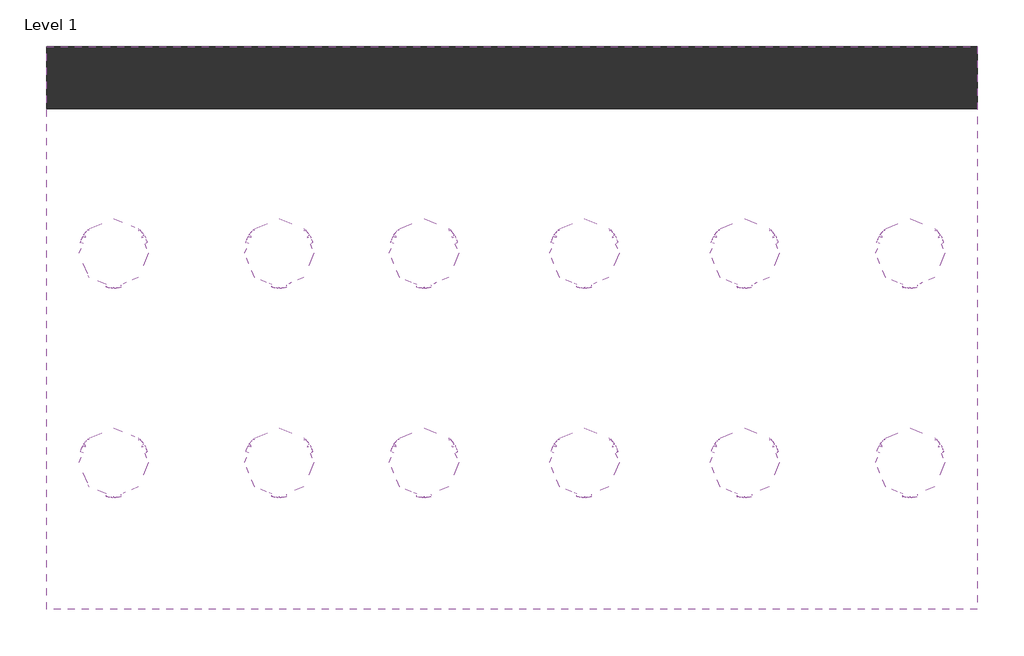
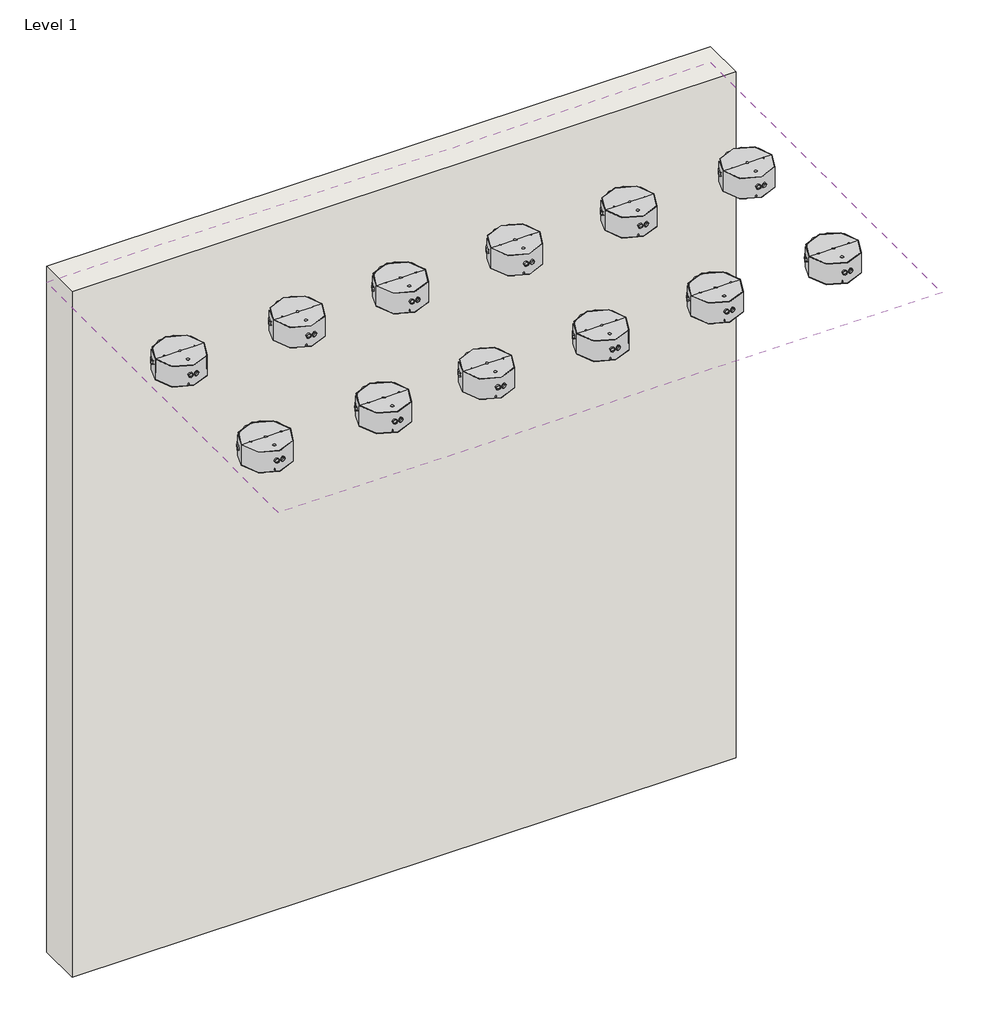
# One storey: 12 proxies, 1 covering, 1 wall.
"""IFC4 building model written with IfcOpenShell, lengths in millimetres."""

import ifcopenshell
import ifcopenshell.guid

model = None  # the IFC model being written
_history = None  # IfcOwnerHistory: only IFC2X3 demands one
_inside = {}  # id of a spatial element -> (the spatial element, [elements in it])
_under = {}  # id of a project, library or spatial element -> (it, [spatial elements below it])
_declared = {}  # id of a project -> (the project, [libraries it declares])
_typed = {}  # id of a type object -> (the type object, [elements of that type])
_made_of = {}  # id of a material, layer set ... -> (it, [elements and type objects made of it])


def new_model(schema):
    """Start an empty IFC model of exactly this schema.

    Asked for "IFC4X3", IfcOpenShell would pick the latest addendum, in which some entities
    have other attributes; the version numbers below select the first issue.
    IFC2X3 requires an IfcOwnerHistory on every rooted entity: one is made here for all.
    """
    global model, _history
    if schema == "IFC4X3":
        model = ifcopenshell.file(schema_version=(4, 3, 0, 0))
    else:
        model = ifcopenshell.file(schema=schema)
    _inside.clear()
    _under.clear()
    _declared.clear()
    _typed.clear()
    _made_of.clear()
    _history = None
    if model.schema == "IFC2X3":
        org = make("IfcOrganization", Name="unknown")
        user = make(
            "IfcPersonAndOrganization",
            ThePerson=make("IfcPerson", FamilyName="unknown"),
            TheOrganization=org,
        )
        app = make(
            "IfcApplication",
            ApplicationDeveloper=org,
            Version="unknown",
            ApplicationFullName="unknown",
            ApplicationIdentifier="unknown",
        )
        _history = make(
            "IfcOwnerHistory",
            OwningUser=user,
            OwningApplication=app,
            ChangeAction="ADDED",
            CreationDate=0,
        )
    return model


def make(cls, **values):
    """One entity of the class cls with the attributes given. An attribute that is None is left unset."""
    return model.create_entity(
        cls, **{name: value for name, value in values.items() if value is not None}
    )


def rooted(cls, **values):
    """An entity with a GlobalId (a new one), such as an element, a storey or a relation."""
    return make(cls, GlobalId=ifcopenshell.guid.new(), OwnerHistory=_history, **values)


def si_unit(unit_type, name, prefix=None):
    """IfcSIUnit, for example si_unit("LENGTHUNIT", "METRE", prefix="MILLI")."""
    return make("IfcSIUnit", UnitType=unit_type, Prefix=prefix, Name=name)


def assignment(units):
    """IfcUnitAssignment: the units of a project."""
    return None if units is None else make("IfcUnitAssignment", Units=units)


def point(xyz):
    """IfcCartesianPoint."""
    return None if xyz is None else make("IfcCartesianPoint", Coordinates=xyz)


def direction(xyz):
    """IfcDirection."""
    return None if xyz is None else make("IfcDirection", DirectionRatios=xyz)


def frame(location, z_axis=None, x_axis=None):
    """IfcAxis2Placement3D, a coordinate frame: its origin and axes. An axis left out is left unset."""
    return make(
        "IfcAxis2Placement3D",
        Location=point(location),
        Axis=direction(z_axis),
        RefDirection=direction(x_axis),
    )


def frame_2d(location, x_axis=None):
    """IfcAxis2Placement2D, a coordinate frame in the plane: its origin and x axis."""
    return make(
        "IfcAxis2Placement2D", Location=point(location), RefDirection=direction(x_axis)
    )


def origin():
    """The frame at (0, 0, 0) with its axes left unset."""
    return frame((0.0, 0.0, 0.0))


def origin_with_axes():
    """The frame at (0, 0, 0) with the z axis (0, 0, 1) and the x axis (1, 0, 0) written out."""
    return frame((0.0, 0.0, 0.0), z_axis=(0.0, 0.0, 1.0), x_axis=(1.0, 0.0, 0.0))


def place(relative_to, where):
    """IfcLocalPlacement: puts the frame where relative to a parent placement (None: the world)."""
    return make(
        "IfcLocalPlacement", PlacementRelTo=relative_to, RelativePlacement=where
    )


def context(
    kind, dimensions, precision=None, world=None, true_north=None, identifier=None
):
    """IfcGeometricRepresentationContext, for example the 3D "Model" context."""
    return make(
        "IfcGeometricRepresentationContext",
        ContextIdentifier=identifier,
        ContextType=kind,
        CoordinateSpaceDimension=dimensions,
        Precision=precision,
        WorldCoordinateSystem=world,
        TrueNorth=true_north,
    )


def project(units=None, contexts=None):
    """IfcProject with its units and contexts."""
    return rooted(
        "IfcProject",
        Name="project",
        RepresentationContexts=contexts,
        UnitsInContext=assignment(units),
    )


def spatial(cls, under=None, at=None, **own):
    """A site, building, storey or space (cls), placed at a placement, below another one or the project."""
    s = rooted(cls, ObjectPlacement=at, **own)
    if under is not None:
        _under.setdefault(under.id(), (under, []))[1].append(s)
    return s


def polyline(points):
    """IfcPolyline through the points."""
    return make("IfcPolyline", Points=[point(p) for p in points])


def circle_curve(where, radius):
    """IfcCircle in the frame where."""
    return make("IfcCircle", Position=where, Radius=radius)


def ellipse_curve(where, semi_axis1, semi_axis2):
    """IfcEllipse in the frame where."""
    return make(
        "IfcEllipse", Position=where, SemiAxis1=semi_axis1, SemiAxis2=semi_axis2
    )


def trimmed(basis, trim1, trim2, sense, master):
    """IfcTrimmedCurve: the piece of a basis curve between two trims."""
    return make(
        "IfcTrimmedCurve",
        BasisCurve=basis,
        Trim1=trim1,
        Trim2=trim2,
        SenseAgreement=sense,
        MasterRepresentation=master,
    )


def segment(curve, same_sense, transition):
    """IfcCompositeCurveSegment."""
    return make(
        "IfcCompositeCurveSegment",
        Transition=transition,
        SameSense=same_sense,
        ParentCurve=curve,
    )


def composite_curve(segments, self_intersect=None):
    """IfcCompositeCurve: segments joined end to end."""
    return make("IfcCompositeCurve", Segments=segments, SelfIntersect=self_intersect)


def outline(outer, holes=None, kind="AREA"):
    """IfcArbitraryClosedProfileDef: a profile drawn as a closed curve; with holes, ...WithVoids."""
    if holes is None:
        return make("IfcArbitraryClosedProfileDef", ProfileType=kind, OuterCurve=outer)
    return make(
        "IfcArbitraryProfileDefWithVoids",
        ProfileType=kind,
        OuterCurve=outer,
        InnerCurves=holes,
    )


def extrude(swept, where, along, depth):
    """IfcExtrudedAreaSolid: the profile swept, set in the frame where, extruded along a direction by depth."""
    return make(
        "IfcExtrudedAreaSolid",
        SweptArea=swept,
        Position=where,
        ExtrudedDirection=direction(along),
        Depth=depth,
    )


def shape(context_of_items, identifier, shape_type, items):
    """IfcShapeRepresentation: the items that make up one representation, for example the "Body"."""
    return make(
        "IfcShapeRepresentation",
        ContextOfItems=context_of_items,
        RepresentationIdentifier=identifier,
        RepresentationType=shape_type,
        Items=items,
    )


def source(mapping_origin, context_of_items, identifier, shape_type, items):
    """IfcRepresentationMap: a shape defined once, which mapped items show again and again."""
    return make(
        "IfcRepresentationMap",
        MappingOrigin=mapping_origin,
        MappedRepresentation=shape(context_of_items, identifier, shape_type, items),
    )


def transform(
    local_origin,
    x_axis=None,
    y_axis=None,
    z_axis=None,
    scale=None,
    scale2=None,
    scale3=None,
    uniform=True,
):
    """IfcCartesianTransformationOperator3D, or its non-uniform kind. x_axis, y_axis, z_axis: its Axis1, 2, 3."""
    if uniform:
        return make(
            "IfcCartesianTransformationOperator3D",
            Axis1=direction(x_axis),
            Axis2=direction(y_axis),
            LocalOrigin=point(local_origin),
            Scale=scale,
            Axis3=direction(z_axis),
        )
    return make(
        "IfcCartesianTransformationOperator3DnonUniform",
        Axis1=direction(x_axis),
        Axis2=direction(y_axis),
        LocalOrigin=point(local_origin),
        Scale=scale,
        Axis3=direction(z_axis),
        Scale2=scale2,
        Scale3=scale3,
    )


def mapped(mapping_source, mapping_target):
    """IfcMappedItem: shows the shape of a source again, moved by a transform."""
    return make(
        "IfcMappedItem", MappingSource=mapping_source, MappingTarget=mapping_target
    )


def made_of(thing, what):
    """Note that an element or type object is made of a material, layer set ...; save() writes the relation."""
    if what is not None:
        _made_of.setdefault(what.id(), (what, []))[1].append(thing)
    return thing


def element(
    cls,
    number,
    at=None,
    inside=None,
    cuts=None,
    type_object=None,
    material=None,
    context=None,
    identifier="Body",
    shape_type=None,
    held_by="IfcProductDefinitionShape",
    body=None,
    shapes=None,
    **own,
):
    """One element of the class cls, such as IfcWall. Its Tag is "e" and its number.

    at: its placement. inside: the storey or other place that contains it. cuts: it is an
    opening in that element (IfcRelVoidsElement). A single representation is given by context,
    identifier, shape_type and body (its items); several are given by shapes. held_by: the class
    of the entity that holds the representations. save() writes the other relations.
    """
    e = rooted(cls, Tag="e%d" % number, ObjectPlacement=at, **own)
    if body is not None:
        shapes = [shape(context, identifier, shape_type, body)]
    if shapes is not None:
        e.Representation = make(held_by, Representations=shapes)
    if inside is not None:
        _inside.setdefault(inside.id(), (inside, []))[1].append(e)
    if cuts is not None:
        rooted(
            "IfcRelVoidsElement", RelatingBuildingElement=cuts, RelatedOpeningElement=e
        )
    if type_object is not None:
        _typed.setdefault(type_object.id(), (type_object, []))[1].append(e)
    return made_of(e, material)


def aggregate(whole, parts):
    """IfcRelAggregates: a whole, such as a stair, and the parts it consists of."""
    return rooted("IfcRelAggregates", RelatingObject=whole, RelatedObjects=parts)


def save(model, path):
    """Write the relations noted so far, then the file.

    IfcRelAggregates (storeys below a building ...), IfcRelContainedInSpatialStructure (elements
    in a storey), IfcRelDefinesByType, IfcRelAssociatesMaterial and IfcRelDeclares: one each for
    every whole, place, type object, material and project.
    """
    for whole, parts in _under.values():
        aggregate(whole, parts)
    for where, things in _inside.values():
        rooted(
            "IfcRelContainedInSpatialStructure",
            RelatedElements=things,
            RelatingStructure=where,
        )
    for kind, things in _typed.values():
        rooted("IfcRelDefinesByType", RelatedObjects=things, RelatingType=kind)
    for what, things in _made_of.values():
        rooted("IfcRelAssociatesMaterial", RelatedObjects=things, RelatingMaterial=what)
    for by, libraries in _declared.values():
        rooted("IfcRelDeclares", RelatingContext=by, RelatedDefinitions=libraries)
    model.write(path)


def plane_surface(at):
    """IfcPlane: the flat surface through the origin of the frame at, square to its z axis."""
    return make("IfcPlane", Position=at)


def cylinder_surface(at, radius):
    """IfcCylindricalSurface: all points at the distance radius from the z axis of the frame at."""
    return make("IfcCylindricalSurface", Position=at, Radius=radius)


def revolved_surface(curve, axis_point, axis_direction):
    """IfcSurfaceOfRevolution: the curve turned about the line through axis_point along axis_direction."""
    return make(
        "IfcSurfaceOfRevolution",
        SweptCurve=make("IfcArbitraryOpenProfileDef", ProfileType="CURVE", Curve=curve),
        AxisPosition=make("IfcAxis1Placement", Location=point(axis_point), Axis=direction(axis_direction)),
    )


def advanced_brep(points, edges, surfaces, faces):
    """IfcAdvancedBrep: a solid bounded by faces that lie on surfaces and meet in shared edges.

    An edge is (start, end): straight between two places in points (the first is 0);
    or (start, end, curve); or (start, end, curve, False) where it runs against its curve.
    A face is (place in surfaces, loops), or (place, loops, False) where it looks against
    its surface's normal. A loop lists edges by number (the first is 1), with a minus sign
    where the edge is run from its end to its start. The first loop is the outer one.
    """
    corners = [point(p) for p in points]
    vertices = [make("IfcVertexPoint", VertexGeometry=c) for c in corners]
    made = []
    for start, end, *more in edges:
        made.append(
            make(
                "IfcEdgeCurve",
                EdgeStart=vertices[start],
                EdgeEnd=vertices[end],
                EdgeGeometry=more[0] if more else make("IfcPolyline", Points=[corners[start], corners[end]]),
                SameSense=more[1] if len(more) > 1 else True,
            )
        )
    hull = []
    for where, loops, *sense in faces:
        bounds = []
        for j, loop in enumerate(loops):
            ring = [make("IfcOrientedEdge", EdgeElement=made[abs(k) - 1], Orientation=k > 0) for k in loop]
            bounds.append(
                make(
                    "IfcFaceOuterBound" if j == 0 else "IfcFaceBound",
                    Bound=make("IfcEdgeLoop", EdgeList=ring),
                    Orientation=True,
                )
            )
        hull.append(make("IfcAdvancedFace", Bounds=bounds, FaceSurface=surfaces[where], SameSense=sense[0] if sense else True))
    return make("IfcAdvancedBrep", Outer=make("IfcClosedShell", CfsFaces=hull))


def communication_devices_d300471b(model_context):
    return source(origin(), model_context, "Body", "SolidModel", [
        extrude(outline(composite_curve([segment(trimmed(circle_curve(frame_2d((0.0, 6.4)), 8.0), [point((0.0, 14.4))], [point((0.0, -1.6))], False, "CARTESIAN"), True, "CONTINUOUS"), segment(trimmed(circle_curve(frame_2d((0.0, 6.4)), 8.0), [point((0.0, -1.6))], [point((0.0, 14.4))], False, "CARTESIAN"), True, "CONTINUOUS")], self_intersect=False), holes=[composite_curve([segment(trimmed(circle_curve(frame_2d((0.0, 6.4)), 6.4), [point((0.0, 12.8))], [point((0.0, 0.0))], True, "CARTESIAN"), True, "CONTINUOUS"), segment(trimmed(circle_curve(frame_2d((0.0, 6.4)), 6.4), [point((0.0, 0.0))], [point((0.0, 12.8))], True, "CARTESIAN"), True, "CONTINUOUS")], self_intersect=False)]), frame((73.5583047, 25.1034264, 41.3589597), z_axis=(0.927183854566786, 0.3746065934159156, 0.0), x_axis=(0.0, 0.0, -1.0)), (0.0, 0.0, 1.0), 8.4103356),
        extrude(outline(composite_curve([segment(trimmed(circle_curve(frame_2d((0.0, 6.4)), 8.0), [point((0.0, 14.4))], [point((0.0, -1.6))], False, "CARTESIAN"), True, "CONTINUOUS"), segment(trimmed(circle_curve(frame_2d((0.0, 6.4)), 8.0), [point((0.0, -1.6))], [point((0.0, 14.4))], False, "CARTESIAN"), True, "CONTINUOUS")], self_intersect=False), holes=[composite_curve([segment(trimmed(circle_curve(frame_2d((0.0, 6.4)), 6.4), [point((0.0, 12.8))], [point((0.0, 0.0))], True, "CARTESIAN"), True, "CONTINUOUS"), segment(trimmed(circle_curve(frame_2d((0.0, 6.4)), 6.4), [point((0.0, 0.0))], [point((0.0, 12.8))], True, "CARTESIAN"), True, "CONTINUOUS")], self_intersect=False)]), frame((-58.5193574, 51.1516474, 41.3589597), z_axis=(-0.7880107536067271, 0.6156614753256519, 0.0), x_axis=(0.0, 0.0, -1.0)), (0.0, 0.0, 1.0), 8.4103356),
        extrude(outline(composite_curve([segment(trimmed(circle_curve(frame_2d((0.0, 6.4000001)), 8.0), [point((0.0, 14.4))], [point((0.0, -1.6))], False, "CARTESIAN"), True, "CONTINUOUS"), segment(trimmed(circle_curve(frame_2d((0.0, 6.4000001)), 8.0), [point((0.0, -1.6))], [point((0.0, 14.4))], False, "CARTESIAN"), True, "CONTINUOUS")], self_intersect=False), holes=[composite_curve([segment(trimmed(circle_curve(frame_2d((0.0, 6.4000001)), 6.4), [point((0.0, 12.8))], [point((0.0, 0.0))], True, "CARTESIAN"), True, "CONTINUOUS"), segment(trimmed(circle_curve(frame_2d((0.0, 6.4000001)), 6.4), [point((0.0, 0.0))], [point((0.0, 12.8))], True, "CARTESIAN"), True, "CONTINUOUS")], self_intersect=False)]), frame((-16.2094399, -84.5835606, 41.3589597), z_axis=(0.13917310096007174, 0.9902680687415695, 0.0), x_axis=(0.0, 0.0, 1.0)), (0.0, 0.0, 1.0), 8.4103356),
        extrude(outline(composite_curve([segment(trimmed(circle_curve(frame_2d((0.0, 6.4)), 8.0), [point((0.0, 14.4))], [point((0.0, -1.6))], False, "CARTESIAN"), True, "CONTINUOUS"), segment(trimmed(circle_curve(frame_2d((0.0, 6.4)), 8.0), [point((0.0, -1.6))], [point((0.0, 14.4))], False, "CARTESIAN"), True, "CONTINUOUS")], self_intersect=False), holes=[composite_curve([segment(trimmed(circle_curve(frame_2d((0.0, 6.4)), 6.4), [point((0.0, 12.8))], [point((0.0, 0.0))], True, "CARTESIAN"), True, "CONTINUOUS"), segment(trimmed(circle_curve(frame_2d((0.0, 6.4)), 6.4), [point((0.0, 0.0))], [point((0.0, 12.8))], True, "CARTESIAN"), True, "CONTINUOUS")], self_intersect=False)]), frame((58.5193574, 51.1516474, 41.3589597), z_axis=(0.7880107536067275, 0.6156614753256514, 0.0), x_axis=(0.0, 0.0, 1.0)), (0.0, 0.0, 1.0), 8.4103356),
        extrude(outline(composite_curve([segment(trimmed(circle_curve(frame_2d((0.0, 6.4)), 8.0), [point((0.0, 14.4))], [point((0.0, -1.6))], False, "CARTESIAN"), True, "CONTINUOUS"), segment(trimmed(circle_curve(frame_2d((0.0, 6.4)), 8.0), [point((0.0, -1.6))], [point((0.0, 14.4))], False, "CARTESIAN"), True, "CONTINUOUS")], self_intersect=False), holes=[composite_curve([segment(trimmed(circle_curve(frame_2d((0.0, 6.4)), 6.4), [point((0.0, 12.8))], [point((0.0, 0.0))], True, "CARTESIAN"), True, "CONTINUOUS"), segment(trimmed(circle_curve(frame_2d((0.0, 6.4)), 6.4), [point((0.0, 0.0))], [point((0.0, 12.8))], True, "CARTESIAN"), True, "CONTINUOUS")], self_intersect=False)]), frame((-73.5583047, 25.1034264, 41.3589597), z_axis=(-0.9271838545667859, 0.3746065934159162, 0.0), x_axis=(0.0, 0.0, 1.0)), (0.0, 0.0, 1.0), 8.4103356),
        extrude(outline(composite_curve([segment(trimmed(circle_curve(frame_2d((0.0, 6.4000001)), 8.0), [point((0.0, 14.4))], [point((0.0, -1.6))], False, "CARTESIAN"), True, "CONTINUOUS"), segment(trimmed(circle_curve(frame_2d((0.0, 6.4000001)), 8.0), [point((0.0, -1.6))], [point((0.0, 14.4))], False, "CARTESIAN"), True, "CONTINUOUS")], self_intersect=False), holes=[composite_curve([segment(trimmed(circle_curve(frame_2d((0.0, 6.4000001)), 6.4), [point((0.0, 12.8))], [point((0.0, 0.0))], True, "CARTESIAN"), True, "CONTINUOUS"), segment(trimmed(circle_curve(frame_2d((0.0, 6.4000001)), 6.4), [point((0.0, 0.0))], [point((0.0, 12.8))], True, "CARTESIAN"), True, "CONTINUOUS")], self_intersect=False)]), frame((16.2094399, -84.5835606, 41.3589597), z_axis=(-0.13917310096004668, 0.990268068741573, 0.0), x_axis=(0.0, 0.0, -1.0)), (0.0, 0.0, 1.0), 8.4103356),
        advanced_brep(
        [(83.1008845, 0.0, 75.0), (-83.1008845, 0.0, 75.0), (-55.5276636, 0.0, 75.0), (-49.6947731, 0.0, 75.0), (-5.0, 0.0, 75.0), (5.0, 0.0, 75.0), (49.6947731, 0.0, 75.0), (55.5276636, 0.0, 75.0), (5.0, -50.0, 75.0), (-5.0, -50.0, 75.0), (83.1008845, 0.0, 25.0), (-83.1008845, 0.0, 25.0), (0.0, 0.0, 25.0), (-5.0, 0.0, 68.563781), (5.0, 0.0, 68.563781), (-5.0, -50.0, 68.563781), (5.0, -50.0, 68.563781), (-55.5276636, 0.0, 68.563781), (-49.6947731, 0.0, 68.563781), (55.5276636, 0.0, 68.563781), (49.6947731, 0.0, 68.563781)],
        [
            (0, 1, circle_curve(frame((0.0, 0.0, 75.0), z_axis=(0.0, 0.0, 1.0), x_axis=(-1.0, 0.0, 0.0)), 83.1008845)),
            (1, 2),
            (2, 3, circle_curve(frame((-52.6112183, 0.0, 75.0), z_axis=(0.0, 0.0, -1.0), x_axis=(1.0, 0.0, 0.0)), 2.9164453)),
            (3, 4),
            (4, 5, circle_curve(frame((0.0, 0.0, 75.0), z_axis=(0.0, 0.0, -1.0), x_axis=(1.0, 0.0, 0.0)), 5.0)),
            (5, 6),
            (6, 7, circle_curve(frame((52.6112183, 0.0, 75.0), z_axis=(0.0, 0.0, -1.0), x_axis=(-1.0, 0.0, 0.0)), 2.9164453)),
            (7, 0),
            (1, 0, circle_curve(frame((0.0, 0.0, 75.0), z_axis=(0.0, 0.0, 1.0), x_axis=(-1.0, 0.0, 0.0)), 83.1008845)),
            (7, 6, circle_curve(frame((52.6112183, 0.0, 75.0), z_axis=(0.0, 0.0, -1.0), x_axis=(-1.0, 0.0, 0.0)), 2.9164453)),
            (5, 4, circle_curve(frame((0.0, 0.0, 75.0), z_axis=(0.0, 0.0, -1.0), x_axis=(1.0, 0.0, 0.0)), 5.0)),
            (3, 2, circle_curve(frame((-52.6112183, 0.0, 75.0), z_axis=(0.0, 0.0, -1.0), x_axis=(1.0, 0.0, 0.0)), 2.9164453)),
            (8, 9, circle_curve(frame((0.0, -50.0, 75.0), z_axis=(0.0, 0.0, -1.0), x_axis=(1.0, 0.0, 0.0)), 5.0)),
            (9, 8, circle_curve(frame((0.0, -50.0, 75.0), z_axis=(0.0, 0.0, -1.0), x_axis=(1.0, 0.0, 0.0)), 5.0)),
            (0, 10),
            (10, 11, circle_curve(frame((0.0, 0.0, 25.0), z_axis=(0.0, 0.0, 1.0), x_axis=(-1.0, 0.0, 0.0)), 83.1008845)),
            (11, 1),
            (11, 10, circle_curve(frame((0.0, 0.0, 25.0), z_axis=(0.0, 0.0, 1.0), x_axis=(-1.0, 0.0, 0.0)), 83.1008845)),
            (10, 12),
            (12, 11),
            (13, 14, circle_curve(frame((0.0, 0.0, 68.563781), z_axis=(0.0, 0.0, 1.0), x_axis=(1.0, 0.0, 0.0)), 5.0)),
            (14, 13, circle_curve(frame((0.0, 0.0, 68.563781), z_axis=(0.0, 0.0, 1.0), x_axis=(1.0, 0.0, 0.0)), 5.0)),
            (15, 16, circle_curve(frame((0.0, -50.0, 68.563781), z_axis=(0.0, 0.0, 1.0), x_axis=(1.0, 0.0, 0.0)), 5.0)),
            (16, 15, circle_curve(frame((0.0, -50.0, 68.563781), z_axis=(0.0, 0.0, 1.0), x_axis=(1.0, 0.0, 0.0)), 5.0)),
            (17, 18, circle_curve(frame((-52.6112183, 0.0, 68.563781), z_axis=(0.0, 0.0, 1.0), x_axis=(1.0, 0.0, 0.0)), 2.9164453)),
            (18, 17, circle_curve(frame((-52.6112183, 0.0, 68.563781), z_axis=(0.0, 0.0, 1.0), x_axis=(1.0, 0.0, 0.0)), 2.9164453)),
            (19, 20, circle_curve(frame((52.6112183, 0.0, 68.563781), z_axis=(0.0, 0.0, 1.0), x_axis=(-1.0, 0.0, 0.0)), 2.9164453)),
            (20, 19, circle_curve(frame((52.6112183, 0.0, 68.563781), z_axis=(0.0, 0.0, 1.0), x_axis=(-1.0, 0.0, 0.0)), 2.9164453)),
            (13, 4),
            (5, 14),
            (15, 9),
            (8, 16),
            (17, 2),
            (3, 18),
            (19, 7),
            (6, 20),
        ],
        [
            plane_surface(frame((0.0, 0.0, 75.0), z_axis=(0.0, 0.0, 1.0), x_axis=(-1.0, 0.0, 0.0))),
            cylinder_surface(frame((0.0, 0.0, 60.0), z_axis=(0.0, 0.0, -1.0), x_axis=(-1.0, 0.0, 0.0)), 83.1008845),
            plane_surface(frame((0.0, 0.0, 25.0), z_axis=(0.0, 0.0, -1.0), x_axis=(-1.0, 0.0, 0.0))),
            plane_surface(frame((5.0, 0.0, 68.563781), z_axis=(0.0, 0.0, 1.0), x_axis=(0.0, -1.0, 0.0))),
            revolved_surface(polyline([(5.0, 0.0, 75.0), (5.0, 0.0, 68.563781)]), (0.0, 0.0, 68.563781), (0.0, 0.0, 1.0)),
            revolved_surface(polyline([(5.0, -50.0, 75.0), (5.0, -50.0, 68.563781)]), (0.0, -50.0, 0.0), (0.0, 0.0, 1.0)),
            revolved_surface(polyline([(-49.694773, 0.0, 75.0), (-49.694773, 0.0, 68.563781)]), (-52.6112183, 0.0, 0.0), (0.0, 0.0, 1.0)),
            revolved_surface(polyline([(49.694773, 0.0, 75.0), (49.694773, 0.0, 68.563781)]), (52.6112183, 0.0, 0.0), (0.0, 0.0, 1.0)),
        ],
        [
            (0, [[1, 2, 3, 4, 5, 6, 7, 8]]),
            (0, [[9, -8, 10, -6, 11, -4, 12, -2], [13, 14]]),
            (1, [[-1, 15, 16, 17]]),
            (1, [[-9, -17, 18, -15]]),
            (2, [[-16, 19, 20]]),
            (2, [[-18, -20, -19]]),
            (3, [[21, 22]]),
            (3, [[23, 24]]),
            (3, [[25, 26]]),
            (3, [[27, 28]]),
            (4, [[-21, 29, -11, 30]]),
            (4, [[-22, -30, -5, -29]]),
            (5, [[-23, 31, -13, 32]]),
            (5, [[-24, -32, -14, -31]]),
            (6, [[-25, 33, -12, 34]]),
            (6, [[-26, -34, -3, -33]]),
            (7, [[-27, 35, -7, 36]]),
            (7, [[-28, -36, -10, -35]]),
        ],
    ),
        advanced_brep(
        [(0.0, 0.0, 0.0), (-69.0225418, 0.0, 0.0), (69.0225418, 0.0, 0.0), (-70.0, 0.0, 0.9774582), (70.0, 0.0, 0.9774582), (-70.0, 0.0, 15.0), (70.0, 0.0, 15.0), (0.0, 0.0, 15.0)],
        [
            (0, 1),
            (1, 2, circle_curve(frame((0.0, 0.0, 0.0), z_axis=(0.0, 0.0, -1.0), x_axis=(-1.0, 0.0, 0.0)), 69.0225418)),
            (2, 0),
            (2, 1, circle_curve(frame((0.0, 0.0, 0.0), z_axis=(0.0, 0.0, -1.0), x_axis=(-1.0, 0.0, 0.0)), 69.0225418)),
            (1, 3, circle_curve(frame((-69.0225418, 0.0, 0.9774582), z_axis=(0.0, 1.0, 0.0), x_axis=(1.0, 0.0, 0.0)), 0.9774582)),
            (3, 4, circle_curve(frame((0.0, 0.0, 0.9774582), z_axis=(0.0, 0.0, -1.0), x_axis=(-1.0, 0.0, 0.0)), 70.0)),
            (4, 2, circle_curve(frame((69.0225418, 0.0, 0.9774582), z_axis=(0.0, 1.0, 0.0), x_axis=(-1.0, 0.0, 0.0)), 0.9774582)),
            (4, 3, circle_curve(frame((0.0, 0.0, 0.9774582), z_axis=(0.0, 0.0, -1.0), x_axis=(-1.0, 0.0, 0.0)), 70.0)),
            (3, 5),
            (5, 6, circle_curve(frame((0.0, 0.0, 15.0), z_axis=(0.0, 0.0, -1.0), x_axis=(-1.0, 0.0, 0.0)), 70.0)),
            (6, 4),
            (6, 5, circle_curve(frame((0.0, 0.0, 15.0), z_axis=(0.0, 0.0, -1.0), x_axis=(-1.0, 0.0, 0.0)), 70.0)),
            (5, 7),
            (7, 6),
        ],
        [
            plane_surface(frame((0.0, 0.0, 0.0), z_axis=(0.0, 0.0, -1.0), x_axis=(-1.0, 0.0, 0.0))),
            revolved_surface(trimmed(ellipse_curve(frame((-69.0225418, 0.0, 0.9774582), z_axis=(0.0, -1.0, 0.0), x_axis=(1.0, 0.0, 0.0)), 0.9774582, 0.9774582), [point((-70.0, 0.0, 0.9774582))], [point((-69.0225418, 0.0, 0.0))], True, "CARTESIAN"), (0.0, 0.0, 7.5), (0.0, 0.0, -1.0)),
            cylinder_surface(frame((0.0, 0.0, 7.5), z_axis=(0.0, 0.0, -1.0), x_axis=(-1.0, 0.0, 0.0)), 70.0),
            plane_surface(frame((0.0, 0.0, 15.0), z_axis=(0.0, 0.0, 1.0), x_axis=(-1.0, 0.0, 0.0))),
        ],
        [
            (0, [[1, 2, 3]]),
            (0, [[-3, 4, -1]]),
            (1, [[-2, 5, 6, 7]]),
            (1, [[-4, -7, 8, -5]]),
            (2, [[-6, 9, 10, 11]]),
            (2, [[-8, -11, 12, -9]]),
            (3, [[-10, 13, 14]]),
            (3, [[-12, -14, -13]]),
        ],
    ),
        advanced_brep(
        [(71.0, 0.0, 0.0), (-71.0, 0.0, 0.0), (-83.5, 0.0, 0.0), (83.5, 0.0, 0.0), (-85.0, 0.0, 1.5), (85.0, 0.0, 1.5), (-85.0, 0.0, 75.0), (85.0, 0.0, 75.0), (-62.669585, 57.424064, 13.619508), (-64.399204, 55.4774055, 13.619508), (-64.399204, 55.4774055, 8.619508), (-62.669585, 57.424064, 8.619508), (81.0654907, 25.5614206, 13.619508), (80.2444445, 28.0326439, 13.619508), (80.2444445, 28.0326439, 8.619508), (81.0654907, 25.5614206, 8.619508), (-18.3959057, -82.9854846, 13.619508), (-15.8452405, -83.5100494, 13.619508), (-15.8452405, -83.5100494, 8.619508), (-18.3959057, -82.9854846, 8.619508), (-83.1008845, 0.0, 75.0), (83.1008845, 0.0, 75.0), (0.0, 0.0, 15.0), (-70.0, 0.0, 15.0), (70.0, 0.0, 15.0), (-70.0, 0.0, 1.0), (70.0, 0.0, 1.0), (83.1008845, 0.0, 25.0), (-83.1008845, 0.0, 25.0), (0.0, 0.0, 25.0), (-15.8452405, -73.2496508, 13.619508), (-18.3959057, -73.2496508, 13.619508), (-18.3959057, -73.2496508, 8.619508), (-15.8452405, -73.2496508, 8.619508), (-55.5134381, 50.3472062, 13.619508), (-54.2381056, 52.5561471, 13.619508), (-54.2381056, 52.5561471, 8.619508), (-55.5134381, 50.3472062, 8.619508), (71.3586787, 22.9024446, 13.619508), (72.6340113, 20.6935037, 13.619508), (72.6340113, 20.6935037, 8.619508), (71.3586787, 22.9024446, 8.619508)],
        [
            (0, 1, circle_curve(frame((0.0, 0.0, 0.0), z_axis=(0.0, 0.0, 1.0), x_axis=(-1.0, 0.0, 0.0)), 71.0)),
            (1, 2),
            (2, 3, circle_curve(frame((0.0, 0.0, 0.0), z_axis=(0.0, 0.0, -1.0), x_axis=(-1.0, 0.0, 0.0)), 83.5)),
            (3, 0),
            (1, 0, circle_curve(frame((0.0, 0.0, 0.0), z_axis=(0.0, 0.0, 1.0), x_axis=(-1.0, 0.0, 0.0)), 71.0)),
            (3, 2, circle_curve(frame((0.0, 0.0, 0.0), z_axis=(0.0, 0.0, -1.0), x_axis=(-1.0, 0.0, 0.0)), 83.5)),
            (2, 4, circle_curve(frame((-83.5, 0.0, 1.5), z_axis=(0.0, 1.0, 0.0), x_axis=(1.0, 0.0, 0.0)), 1.5)),
            (4, 5, circle_curve(frame((0.0, 0.0, 1.5), z_axis=(0.0, 0.0, -1.0), x_axis=(-1.0, 0.0, 0.0)), 85.0)),
            (5, 3, circle_curve(frame((83.5, 0.0, 1.5), z_axis=(0.0, 1.0, 0.0), x_axis=(-1.0, 0.0, 0.0)), 1.5)),
            (5, 4, circle_curve(frame((0.0, 0.0, 1.5), z_axis=(0.0, 0.0, -1.0), x_axis=(-1.0, 0.0, 0.0)), 85.0)),
            (4, 6),
            (6, 7, circle_curve(frame((0.0, 0.0, 75.0), z_axis=(0.0, 0.0, -1.0), x_axis=(-1.0, 0.0, 0.0)), 85.0)),
            (7, 5),
            (8, 9, circle_curve(frame((0.0, 0.0, 13.619508), z_axis=(0.0, 0.0, 1.0), x_axis=(-1.0, 0.0, 0.0)), 85.0)),
            (9, 10),
            (10, 11, circle_curve(frame((0.0, 0.0, 8.619508), z_axis=(0.0, 0.0, -1.0), x_axis=(-1.0, 0.0, 0.0)), 85.0)),
            (11, 8),
            (12, 13, circle_curve(frame((0.0, 0.0, 13.619508), z_axis=(0.0, 0.0, 1.0), x_axis=(-1.0, 0.0, 0.0)), 85.0)),
            (13, 14),
            (14, 15, circle_curve(frame((0.0, 0.0, 8.619508), z_axis=(0.0, 0.0, -1.0), x_axis=(-1.0, 0.0, 0.0)), 85.0)),
            (15, 12),
            (7, 6, circle_curve(frame((0.0, 0.0, 75.0), z_axis=(0.0, 0.0, -1.0), x_axis=(-1.0, 0.0, 0.0)), 85.0)),
            (16, 17, circle_curve(frame((0.0, 0.0, 13.619508), z_axis=(0.0, 0.0, 1.0), x_axis=(-1.0, 0.0, 0.0)), 85.0)),
            (17, 18),
            (18, 19, circle_curve(frame((0.0, 0.0, 8.619508), z_axis=(0.0, 0.0, -1.0), x_axis=(-1.0, 0.0, 0.0)), 85.0)),
            (19, 16),
            (6, 20),
            (20, 21, circle_curve(frame((0.0, 0.0, 75.0), z_axis=(0.0, 0.0, -1.0), x_axis=(-1.0, 0.0, 0.0)), 83.1008845)),
            (21, 7),
            (21, 20, circle_curve(frame((0.0, 0.0, 75.0), z_axis=(0.0, 0.0, -1.0), x_axis=(-1.0, 0.0, 0.0)), 83.1008845)),
            (22, 23),
            (23, 24, circle_curve(frame((0.0, 0.0, 15.0), z_axis=(0.0, 0.0, -1.0), x_axis=(-1.0, 0.0, 0.0)), 70.0)),
            (24, 22),
            (24, 23, circle_curve(frame((0.0, 0.0, 15.0), z_axis=(0.0, 0.0, -1.0), x_axis=(-1.0, 0.0, 0.0)), 70.0)),
            (23, 25),
            (25, 26, circle_curve(frame((0.0, 0.0, 1.0), z_axis=(0.0, 0.0, -1.0), x_axis=(-1.0, 0.0, 0.0)), 70.0)),
            (26, 24),
            (26, 25, circle_curve(frame((0.0, 0.0, 1.0), z_axis=(0.0, 0.0, -1.0), x_axis=(-1.0, 0.0, 0.0)), 70.0)),
            (0, 26, circle_curve(frame((71.0, 0.0, 1.0), z_axis=(0.0, 1.0, 0.0), x_axis=(-1.0, 0.0, 0.0)), 1.0)),
            (25, 1, circle_curve(frame((-71.0, 0.0, 1.0), z_axis=(0.0, 1.0, 0.0), x_axis=(1.0, 0.0, 0.0)), 1.0)),
            (27, 28, circle_curve(frame((0.0, 0.0, 25.0), z_axis=(0.0, 0.0, 1.0), x_axis=(-1.0, 0.0, 0.0)), 83.1008845)),
            (28, 29),
            (29, 27),
            (28, 27, circle_curve(frame((0.0, 0.0, 25.0), z_axis=(0.0, 0.0, 1.0), x_axis=(-1.0, 0.0, 0.0)), 83.1008845)),
            (20, 28),
            (27, 21),
            (30, 31),
            (31, 32),
            (32, 33),
            (33, 30),
            (30, 17),
            (16, 31),
            (19, 32),
            (18, 33),
            (34, 35),
            (35, 36),
            (36, 37),
            (37, 34),
            (34, 9),
            (8, 35),
            (11, 36),
            (10, 37),
            (38, 39),
            (39, 40),
            (40, 41),
            (41, 38),
            (38, 13),
            (12, 39),
            (15, 40),
            (14, 41),
        ],
        [
            plane_surface(frame((0.0, 0.0, 0.0), z_axis=(0.0, 0.0, -1.0), x_axis=(-1.0, 0.0, 0.0))),
            revolved_surface(trimmed(ellipse_curve(frame((-83.5, 0.0, 1.5), z_axis=(0.0, -1.0, 0.0), x_axis=(1.0, 0.0, 0.0)), 1.5, 1.5), [point((-85.0, 0.0, 1.5))], [point((-83.5, 0.0, 0.0))], True, "CARTESIAN"), (0.0, 0.0, 10.0), (0.0, 0.0, -1.0)),
            cylinder_surface(frame((0.0, 0.0, 10.0), z_axis=(0.0, 0.0, -1.0), x_axis=(-1.0, 0.0, 0.0)), 85.0),
            plane_surface(frame((0.0, 0.0, 75.0), z_axis=(0.0, 0.0, 1.0), x_axis=(-1.0, 0.0, 0.0))),
            plane_surface(frame((0.0, 0.0, 15.0), z_axis=(0.0, 0.0, -1.0), x_axis=(-1.0, 0.0, 0.0))),
            revolved_surface(polyline([(-70.0, 0.0, 1.0), (-70.0, 0.0, 15.0)]), (0.0, 0.0, 10.0), (0.0, 0.0, -1.0)),
            revolved_surface(trimmed(ellipse_curve(frame((-71.0, 0.0, 1.0), z_axis=(0.0, -1.0, 0.0), x_axis=(1.0, 0.0, 0.0)), 1.0, 1.0), [point((-71.0, 0.0, 0.0))], [point((-70.0, 0.0, 1.0))], True, "CARTESIAN"), (0.0, 0.0, 10.0), (0.0, 0.0, -1.0)),
            plane_surface(frame((0.0, 0.0, 25.0), z_axis=(0.0, 0.0, 1.0), x_axis=(-1.0, 0.0, 0.0))),
            revolved_surface(polyline([(-83.1008845, 0.0, 25.0), (-83.1008845, 0.0, 75.0)]), (0.0, 0.0, 10.0), (0.0, 0.0, -1.0)),
            plane_surface(frame((-18.3959057, -73.2496508, 13.619508), z_axis=(0.0, -1.0, 0.0), x_axis=(1.0, 0.0, 0.0))),
            plane_surface(frame((-15.8452405, -88.4682271, 13.619508), z_axis=(0.0, 0.0, -1.0), x_axis=(0.0, 1.0, 0.0))),
            plane_surface(frame((-18.3959057, -88.4682271, 13.619508), z_axis=(1.0, 0.0, 0.0), x_axis=(0.0, 1.0, 0.0))),
            plane_surface(frame((-18.3959057, -88.4682271, 8.619508), z_axis=(0.0, 0.0, 1.0), x_axis=(0.0, 1.0, 0.0))),
            plane_surface(frame((-15.8452405, -88.4682271, 8.619508), z_axis=(-1.0, 0.0, 0.0), x_axis=(0.0, 1.0, 0.0))),
            plane_surface(frame((-54.2381056, 52.5561471, 13.619508), z_axis=(-0.8660254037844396, 0.49999999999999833, 0.0), x_axis=(-0.49999999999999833, -0.8660254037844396, 0.0))),
            plane_surface(frame((-68.6931118, 57.9564944, 13.619508), z_axis=(0.0, 0.0, -1.0), x_axis=(0.8660254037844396, -0.4999999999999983, 0.0))),
            plane_surface(frame((-67.4177792, 60.1654352, 13.619508), z_axis=(-0.4999999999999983, -0.8660254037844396, 0.0), x_axis=(0.8660254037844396, -0.4999999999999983, 0.0))),
            plane_surface(frame((-67.4177792, 60.1654352, 8.619508), z_axis=(0.0, 0.0, 1.0), x_axis=(0.8660254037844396, -0.4999999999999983, 0.0))),
            plane_surface(frame((-68.6931118, 57.9564944, 8.619508), z_axis=(0.4999999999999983, 0.8660254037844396, 0.0), x_axis=(0.8660254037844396, -0.4999999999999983, 0.0))),
            plane_surface(frame((72.6340113, 20.6935037, 13.619508), z_axis=(0.8660254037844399, 0.49999999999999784, 0.0), x_axis=(-0.49999999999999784, 0.8660254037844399, 0.0))),
            plane_surface(frame((84.5383523, 30.5117327, 13.619508), z_axis=(0.0, 0.0, -1.0), x_axis=(-0.86602540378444, -0.4999999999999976, 0.0))),
            plane_surface(frame((85.8136849, 28.3027919, 13.619508), z_axis=(-0.49999999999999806, 0.8660254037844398, 0.0), x_axis=(-0.8660254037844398, -0.49999999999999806, 0.0))),
            plane_surface(frame((85.8136849, 28.3027919, 8.619508), z_axis=(0.0, 0.0, 1.0), x_axis=(-0.8660254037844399, -0.49999999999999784, 0.0))),
            plane_surface(frame((84.5383523, 30.5117327, 8.619508), z_axis=(0.49999999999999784, -0.8660254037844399, 0.0), x_axis=(-0.8660254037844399, -0.49999999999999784, 0.0))),
        ],
        [
            (0, [[1, 2, 3, 4]]),
            (0, [[-2, 5, -4, 6]]),
            (1, [[-3, 7, 8, 9]]),
            (1, [[-6, -9, 10, -7]]),
            (2, [[-8, 11, 12, 13], [14, 15, 16, 17], [18, 19, 20, 21]]),
            (2, [[-10, -13, 22, -11], [23, 24, 25, 26]]),
            (3, [[-12, 27, 28, 29]]),
            (3, [[-22, -29, 30, -27]]),
            (4, [[31, 32, 33]]),
            (4, [[-31, -33, 34]]),
            (5, [[-32, 35, 36, 37]]),
            (5, [[-34, -37, 38, -35]]),
            (6, [[-1, 39, -36, 40]]),
            (6, [[-5, -40, -38, -39]]),
            (7, [[41, 42, 43]]),
            (7, [[-42, 44, -43]]),
            (8, [[-28, 45, -41, 46]]),
            (8, [[-30, -46, -44, -45]]),
            (9, [[47, 48, 49, 50]]),
            (10, [[-47, 51, -23, 52]]),
            (11, [[-48, -52, -26, 53]]),
            (12, [[-49, -53, -25, 54]]),
            (13, [[-50, -54, -24, -51]]),
            (14, [[55, 56, 57, 58]]),
            (15, [[-55, 59, -14, 60]]),
            (16, [[-56, -60, -17, 61]]),
            (17, [[-57, -61, -16, 62]]),
            (18, [[-58, -62, -15, -59]]),
            (19, [[63, 64, 65, 66]]),
            (20, [[-63, 67, -18, 68]]),
            (21, [[-64, -68, -21, 69]]),
            (22, [[-65, -69, -20, 70]]),
            (23, [[-66, -70, -19, -67]]),
        ],
    ),
    ])


model = new_model("IFC4")

# Units and contexts
model_context = context("Model", 3, world=origin())
ifc_project = project(units=[si_unit("LENGTHUNIT", "METRE", prefix="MILLI")], contexts=[model_context])

# Site, building, storey
site = spatial("IfcSite", under=ifc_project)
building = spatial("IfcBuilding", under=site)
storey = spatial("IfcBuildingStorey", under=building, Name="Level 1", Elevation=0.0)

# Proxies
placement = place(None, origin())
communication_devices_shape = communication_devices_d300471b(model_context)
element("IfcBuildingElementProxy", 1, Name="DL-A 10-165_T-EN54 : DL-A 10-165/T-EN54 SKD", ObjectType="DL-A 10-165_T-EN54 : DL-A 10-165/T-EN54 SKD", at=placement, inside=storey, context=model_context, shape_type="MappedRepresentation", body=[
    mapped(communication_devices_shape, transform((1998.2973575, 1607.5766815, 2363.4), x_axis=(1.0, 0.0, 0.0), y_axis=(0.0, 1.0, 0.0), z_axis=(0.0, 0.0, 1.0))),
])
element("IfcBuildingElementProxy", 2, Name="DL-A 10-165_T-EN54 : DL-A 10-165/T-EN54 SKD", ObjectType="DL-A 10-165_T-EN54 : DL-A 10-165/T-EN54 SKD", at=placement, inside=storey, context=model_context, shape_type="MappedRepresentation", body=[
    mapped(communication_devices_shape, transform((2404.6973575, 1607.5766815, 2363.4), x_axis=(1.0, 0.0, 0.0), y_axis=(0.0, 1.0, 0.0), z_axis=(0.0, 0.0, 1.0))),
])
element("IfcBuildingElementProxy", 3, Name="DL-A 10-165_T-EN54 : DL-A 10-165/T-EN54 SKD", ObjectType="DL-A 10-165_T-EN54 : DL-A 10-165/T-EN54 SKD", at=placement, inside=storey, context=model_context, shape_type="MappedRepresentation", body=[
    mapped(communication_devices_shape, transform((2760.2973575, 1607.5766815, 2363.4), x_axis=(1.0, 0.0, 0.0), y_axis=(0.0, 1.0, 0.0), z_axis=(0.0, 0.0, 1.0))),
])
element("IfcBuildingElementProxy", 4, Name="DL-A 10-165_T-EN54 : DL-A 10-165/T-EN54 SKD", ObjectType="DL-A 10-165_T-EN54 : DL-A 10-165/T-EN54 SKD", at=placement, inside=storey, context=model_context, shape_type="MappedRepresentation", body=[
    mapped(communication_devices_shape, transform((3153.9973575, 1607.5766815, 2363.4), x_axis=(1.0, 0.0, 0.0), y_axis=(0.0, 1.0, 0.0), z_axis=(0.0, 0.0, 1.0))),
])
element("IfcBuildingElementProxy", 5, Name="DL-A 10-165_T-EN54 : DL-A 10-165/T-EN54 SKD", ObjectType="DL-A 10-165_T-EN54 : DL-A 10-165/T-EN54 SKD", at=placement, inside=storey, context=model_context, shape_type="MappedRepresentation", body=[
    mapped(communication_devices_shape, transform((3547.6973575, 1607.5766815, 2363.4), x_axis=(1.0, 0.0, 0.0), y_axis=(0.0, 1.0, 0.0), z_axis=(0.0, 0.0, 1.0))),
])
element("IfcBuildingElementProxy", 6, Name="DL-A 10-165_T-EN54 : DL-A 10-165/T-EN54 SKD", ObjectType="DL-A 10-165_T-EN54 : DL-A 10-165/T-EN54 SKD", at=placement, inside=storey, context=model_context, shape_type="MappedRepresentation", body=[
    mapped(communication_devices_shape, transform((3954.0973575, 1607.5766815, 2363.4), x_axis=(1.0, 0.0, 0.0), y_axis=(0.0, 1.0, 0.0), z_axis=(0.0, 0.0, 1.0))),
])
element("IfcBuildingElementProxy", 7, Name="DL-A 10-165_T-EN54 : DL-A 10-165/T-EN54 SKD", ObjectType="DL-A 10-165_T-EN54 : DL-A 10-165/T-EN54 SKD", at=placement, inside=storey, context=model_context, shape_type="MappedRepresentation", body=[
    mapped(communication_devices_shape, transform((1998.2973575, 1093.2266815, 2363.4), x_axis=(1.0, 0.0, 0.0), y_axis=(0.0, 1.0, 0.0), z_axis=(0.0, 0.0, 1.0))),
])
element("IfcBuildingElementProxy", 8, Name="DL-A 10-165_T-EN54 : DL-A 10-165/T-EN54 SKD", ObjectType="DL-A 10-165_T-EN54 : DL-A 10-165/T-EN54 SKD", at=placement, inside=storey, context=model_context, shape_type="MappedRepresentation", body=[
    mapped(communication_devices_shape, transform((2404.6973575, 1093.2266815, 2363.4), x_axis=(1.0, 0.0, 0.0), y_axis=(0.0, 1.0, 0.0), z_axis=(0.0, 0.0, 1.0))),
])
element("IfcBuildingElementProxy", 9, Name="DL-A 10-165_T-EN54 : DL-A 10-165/T-EN54 SKD", ObjectType="DL-A 10-165_T-EN54 : DL-A 10-165/T-EN54 SKD", at=placement, inside=storey, context=model_context, shape_type="MappedRepresentation", body=[
    mapped(communication_devices_shape, transform((2760.2973575, 1093.2266815, 2363.4), x_axis=(1.0, 0.0, 0.0), y_axis=(0.0, 1.0, 0.0), z_axis=(0.0, 0.0, 1.0))),
])
element("IfcBuildingElementProxy", 10, Name="DL-A 10-165_T-EN54 : DL-A 10-165/T-EN54 SKD", ObjectType="DL-A 10-165_T-EN54 : DL-A 10-165/T-EN54 SKD", at=placement, inside=storey, context=model_context, shape_type="MappedRepresentation", body=[
    mapped(communication_devices_shape, transform((3153.9973575, 1093.2266815, 2363.4), x_axis=(1.0, 0.0, 0.0), y_axis=(0.0, 1.0, 0.0), z_axis=(0.0, 0.0, 1.0))),
])
element("IfcBuildingElementProxy", 11, Name="DL-A 10-165_T-EN54 : DL-A 10-165/T-EN54 SKD", ObjectType="DL-A 10-165_T-EN54 : DL-A 10-165/T-EN54 SKD", at=placement, inside=storey, context=model_context, shape_type="MappedRepresentation", body=[
    mapped(communication_devices_shape, transform((3547.6973575, 1093.2266815, 2363.4), x_axis=(1.0, 0.0, 0.0), y_axis=(0.0, 1.0, 0.0), z_axis=(0.0, 0.0, 1.0))),
])
element("IfcBuildingElementProxy", 12, Name="DL-A 10-165_T-EN54 : DL-A 10-165/T-EN54 SKD", ObjectType="DL-A 10-165_T-EN54 : DL-A 10-165/T-EN54 SKD", at=placement, inside=storey, context=model_context, shape_type="MappedRepresentation", body=[
    mapped(communication_devices_shape, transform((3954.0973575, 1093.2266815, 2363.4), x_axis=(1.0, 0.0, 0.0), y_axis=(0.0, 1.0, 0.0), z_axis=(0.0, 0.0, 1.0))),
])

# Covering
element("IfcCovering", 13, ObjectType="2' x 4' ACT System", at=placement, inside=storey, context=model_context, shape_type="SweptSolid", body=[
    extrude(outline(polyline([(4119.1973575, 2115.5766815), (4119.1973575, 732.2741036), (1833.1973575, 732.2741036), (1833.1973575, 2115.5766815), (4119.1973575, 2115.5766815)])), frame((0.0, 0.0, 2438.4), z_axis=(0.0, 0.0, 1.0), x_axis=(1.0, 0.0, 0.0)), (0.0, 0.0, 1.0), 57.15),
])

# Wall
element("IfcWall", 14, ObjectType="Exterior - 6\" Generic", at=placement, inside=storey, context=model_context, shape_type="SweptSolid", body=[
    extrude(outline(polyline([(4119.1973575, 1963.1766815), (1833.1973575, 1963.1766815), (1833.1973575, 2115.5766815), (4119.1973575, 2115.5766815), (4119.1973575, 1963.1766815)])), origin_with_axes(), (0.0, 0.0, 1.0), 2495.55),
])

save(model, "model.ifc")
